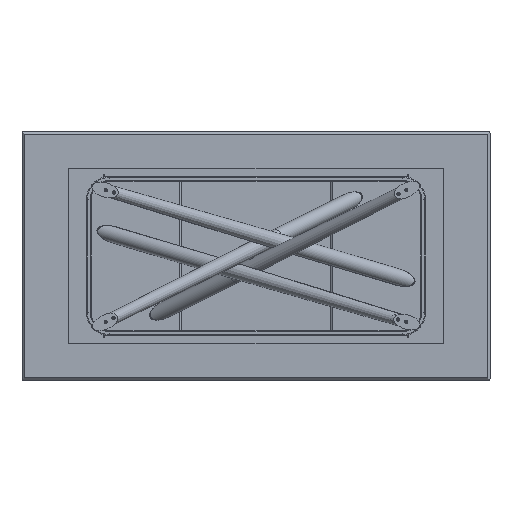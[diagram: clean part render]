
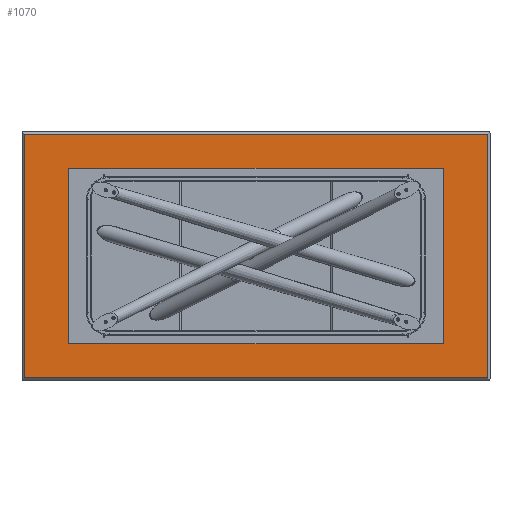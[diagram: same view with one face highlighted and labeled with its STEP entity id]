
A CAD part, front view. The second image highlights one B-rep face of the part: STEP entity #1070.
In plain terms, the highlighted planar face has unit normal (0, -1, 0).
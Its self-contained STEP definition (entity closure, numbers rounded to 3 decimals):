
#109 = AXIS2_PLACEMENT_3D ( 'NONE', #9426, #4473, #2539 ) ;
#129 = EDGE_CURVE ( 'NONE', #9306, #10733, #5934, .T. ) ;
#211 = CARTESIAN_POINT ( 'NONE',  ( 0., 0., -520. ) ) ;
#265 = EDGE_CURVE ( 'NONE', #8563, #2896, #9853, .T. ) ;
#312 = CIRCLE ( 'NONE', #7589, 2.5 ) ;
#317 = DIRECTION ( 'NONE',  ( 0., -1., 0. ) ) ;
#336 = ORIENTED_EDGE ( 'NONE', *, *, #8029, .F. ) ;
#354 = DIRECTION ( 'NONE',  ( 0., 0., -1. ) ) ;
#491 = DIRECTION ( 'NONE',  ( 0., 0., -1. ) ) ;
#563 = CARTESIAN_POINT ( 'NONE',  ( 680., 0., -235. ) ) ;
#729 = VERTEX_POINT ( 'NONE', #7612 ) ;
#1070 = ADVANCED_FACE ( 'NONE', ( #9224, #12483, #5466, #6431, #9360 ), #11510, .F. ) ;
#1181 = ORIENTED_EDGE ( 'NONE', *, *, #265, .F. ) ;
#1212 = EDGE_LOOP ( 'NONE', ( #8241, #336 ) ) ;
#1349 = CARTESIAN_POINT ( 'NONE',  ( -990., 0., 0. ) ) ;
#1353 = DIRECTION ( 'NONE',  ( 0., 0., -1. ) ) ;
#1416 = CIRCLE ( 'NONE', #11603, 2.5 ) ;
#1430 = ORIENTED_EDGE ( 'NONE', *, *, #2000, .T. ) ;
#1466 = EDGE_CURVE ( 'NONE', #1830, #9664, #312, .T. ) ;
#1543 = CARTESIAN_POINT ( 'NONE',  ( -680., 0., -235. ) ) ;
#1546 = CARTESIAN_POINT ( 'NONE',  ( 0., 0., 520. ) ) ;
#1830 = VERTEX_POINT ( 'NONE', #10045 ) ;
#1981 = CARTESIAN_POINT ( 'NONE',  ( -990., 0., 520. ) ) ;
#1989 = AXIS2_PLACEMENT_3D ( 'NONE', #5048, #12072, #2190 ) ;
#2000 = EDGE_CURVE ( 'NONE', #10125, #6095, #6272, .T. ) ;
#2190 = DIRECTION ( 'NONE',  ( 0., 0., -1. ) ) ;
#2219 = VECTOR ( 'NONE', #8280, 1000. ) ;
#2309 = CARTESIAN_POINT ( 'NONE',  ( 990., 0., 520. ) ) ;
#2323 = VERTEX_POINT ( 'NONE', #1981 ) ;
#2335 = ORIENTED_EDGE ( 'NONE', *, *, #12194, .F. ) ;
#2519 = DIRECTION ( 'NONE',  ( 0., -1., 0. ) ) ;
#2539 = DIRECTION ( 'NONE',  ( 0., 0., 1. ) ) ;
#2588 = CARTESIAN_POINT ( 'NONE',  ( -990., 0., -520. ) ) ;
#2881 = CARTESIAN_POINT ( 'NONE',  ( -680., 0., 235. ) ) ;
#2896 = VERTEX_POINT ( 'NONE', #6352 ) ;
#3039 = CIRCLE ( 'NONE', #4287, 2.5 ) ;
#3198 = AXIS2_PLACEMENT_3D ( 'NONE', #2881, #5759, #9838 ) ;
#3288 = CARTESIAN_POINT ( 'NONE',  ( 680., 0., 235. ) ) ;
#3334 = CIRCLE ( 'NONE', #8949, 2.5 ) ;
#3489 = VECTOR ( 'NONE', #4655, 1000. ) ;
#3972 = EDGE_CURVE ( 'NONE', #7244, #729, #11193, .T. ) ;
#4182 = DIRECTION ( 'NONE',  ( 1., 0., 0. ) ) ;
#4287 = AXIS2_PLACEMENT_3D ( 'NONE', #1543, #2519, #354 ) ;
#4317 = CARTESIAN_POINT ( 'NONE',  ( 990., 0., 0. ) ) ;
#4473 = DIRECTION ( 'NONE',  ( 0., 1., 0. ) ) ;
#4655 = DIRECTION ( 'NONE',  ( -1., 0., 0. ) ) ;
#4778 = EDGE_CURVE ( 'NONE', #2896, #8563, #11034, .T. ) ;
#5006 = EDGE_LOOP ( 'NONE', ( #7258, #1181 ) ) ;
#5048 = CARTESIAN_POINT ( 'NONE',  ( -680., 0., -235. ) ) ;
#5085 = EDGE_LOOP ( 'NONE', ( #7272, #2335 ) ) ;
#5430 = AXIS2_PLACEMENT_3D ( 'NONE', #12231, #317, #7485 ) ;
#5466 = FACE_BOUND ( 'NONE', #5006, .T. ) ;
#5519 = CARTESIAN_POINT ( 'NONE',  ( -680., 0., -232.5 ) ) ;
#5595 = AXIS2_PLACEMENT_3D ( 'NONE', #10261, #12339, #1353 ) ;
#5759 = DIRECTION ( 'NONE',  ( 0., -1., 0. ) ) ;
#5934 = CIRCLE ( 'NONE', #1989, 2.5 ) ;
#6095 = VERTEX_POINT ( 'NONE', #2309 ) ;
#6158 = ORIENTED_EDGE ( 'NONE', *, *, #129, .F. ) ;
#6198 = EDGE_CURVE ( 'NONE', #9428, #10125, #9127, .T. ) ;
#6272 = LINE ( 'NONE', #4317, #2219 ) ;
#6309 = DIRECTION ( 'NONE',  ( 0., -1., 0. ) ) ;
#6352 = CARTESIAN_POINT ( 'NONE',  ( -680., 0., 232.5 ) ) ;
#6431 = FACE_BOUND ( 'NONE', #5085, .T. ) ;
#6503 = DIRECTION ( 'NONE',  ( 0., 0., -1. ) ) ;
#6876 = EDGE_LOOP ( 'NONE', ( #8537, #11981, #1430, #12676 ) ) ;
#7037 = CARTESIAN_POINT ( 'NONE',  ( 990., 0., -520. ) ) ;
#7075 = EDGE_CURVE ( 'NONE', #10733, #9306, #3039, .T. ) ;
#7222 = EDGE_LOOP ( 'NONE', ( #8832, #6158 ) ) ;
#7244 = VERTEX_POINT ( 'NONE', #9795 ) ;
#7257 = DIRECTION ( 'NONE',  ( 0., -1., 0. ) ) ;
#7258 = ORIENTED_EDGE ( 'NONE', *, *, #4778, .F. ) ;
#7272 = ORIENTED_EDGE ( 'NONE', *, *, #1466, .F. ) ;
#7485 = DIRECTION ( 'NONE',  ( 0., 0., -1. ) ) ;
#7589 = AXIS2_PLACEMENT_3D ( 'NONE', #3288, #7257, #491 ) ;
#7612 = CARTESIAN_POINT ( 'NONE',  ( 680., 0., -232.5 ) ) ;
#8029 = EDGE_CURVE ( 'NONE', #729, #7244, #1416, .T. ) ;
#8137 = EDGE_CURVE ( 'NONE', #6095, #2323, #9345, .T. ) ;
#8241 = ORIENTED_EDGE ( 'NONE', *, *, #3972, .F. ) ;
#8280 = DIRECTION ( 'NONE',  ( 0., 0., 1. ) ) ;
#8370 = DIRECTION ( 'NONE',  ( 0., 0., -1. ) ) ;
#8537 = ORIENTED_EDGE ( 'NONE', *, *, #11074, .T. ) ;
#8563 = VERTEX_POINT ( 'NONE', #10373 ) ;
#8832 = ORIENTED_EDGE ( 'NONE', *, *, #7075, .F. ) ;
#8949 = AXIS2_PLACEMENT_3D ( 'NONE', #10415, #6309, #6503 ) ;
#9127 = LINE ( 'NONE', #211, #12364 ) ;
#9137 = CARTESIAN_POINT ( 'NONE',  ( 680., 0., 237.5 ) ) ;
#9224 = FACE_BOUND ( 'NONE', #1212, .T. ) ;
#9306 = VERTEX_POINT ( 'NONE', #5519 ) ;
#9345 = LINE ( 'NONE', #1546, #3489 ) ;
#9350 = LINE ( 'NONE', #1349, #12044 ) ;
#9360 = FACE_OUTER_BOUND ( 'NONE', #6876, .T. ) ;
#9426 = CARTESIAN_POINT ( 'NONE',  ( 0., 0., 0. ) ) ;
#9428 = VERTEX_POINT ( 'NONE', #2588 ) ;
#9609 = DIRECTION ( 'NONE',  ( 0., 0., -1. ) ) ;
#9664 = VERTEX_POINT ( 'NONE', #9137 ) ;
#9795 = CARTESIAN_POINT ( 'NONE',  ( 680., 0., -237.5 ) ) ;
#9838 = DIRECTION ( 'NONE',  ( 0., 0., -1. ) ) ;
#9853 = CIRCLE ( 'NONE', #3198, 2.5 ) ;
#10045 = CARTESIAN_POINT ( 'NONE',  ( 680., 0., 232.5 ) ) ;
#10125 = VERTEX_POINT ( 'NONE', #7037 ) ;
#10261 = CARTESIAN_POINT ( 'NONE',  ( 680., 0., -235. ) ) ;
#10373 = CARTESIAN_POINT ( 'NONE',  ( -680., 0., 237.5 ) ) ;
#10415 = CARTESIAN_POINT ( 'NONE',  ( 680., 0., 235. ) ) ;
#10733 = VERTEX_POINT ( 'NONE', #12352 ) ;
#11034 = CIRCLE ( 'NONE', #5430, 2.5 ) ;
#11074 = EDGE_CURVE ( 'NONE', #2323, #9428, #9350, .T. ) ;
#11193 = CIRCLE ( 'NONE', #5595, 2.5 ) ;
#11510 = PLANE ( 'NONE',  #109 ) ;
#11603 = AXIS2_PLACEMENT_3D ( 'NONE', #563, #12400, #9609 ) ;
#11981 = ORIENTED_EDGE ( 'NONE', *, *, #6198, .T. ) ;
#12044 = VECTOR ( 'NONE', #8370, 1000. ) ;
#12072 = DIRECTION ( 'NONE',  ( 0., -1., 0. ) ) ;
#12194 = EDGE_CURVE ( 'NONE', #9664, #1830, #3334, .T. ) ;
#12231 = CARTESIAN_POINT ( 'NONE',  ( -680., 0., 235. ) ) ;
#12339 = DIRECTION ( 'NONE',  ( 0., -1., 0. ) ) ;
#12352 = CARTESIAN_POINT ( 'NONE',  ( -680., 0., -237.5 ) ) ;
#12364 = VECTOR ( 'NONE', #4182, 1000. ) ;
#12400 = DIRECTION ( 'NONE',  ( 0., -1., 0. ) ) ;
#12483 = FACE_BOUND ( 'NONE', #7222, .T. ) ;
#12676 = ORIENTED_EDGE ( 'NONE', *, *, #8137, .T. ) ;
